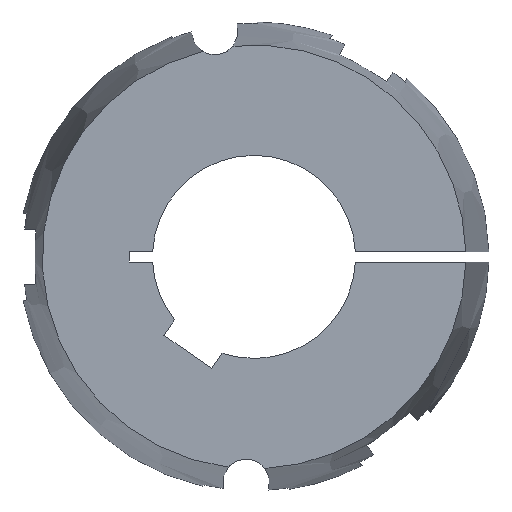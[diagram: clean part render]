
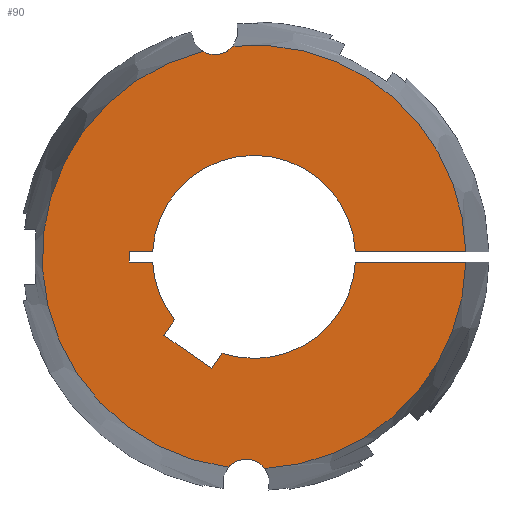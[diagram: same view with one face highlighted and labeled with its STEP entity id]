
A CAD part, left-side view. The second image highlights one B-rep face of the part: STEP entity #90.
In plain terms, the highlighted planar face has unit normal (-1, 0, 0).
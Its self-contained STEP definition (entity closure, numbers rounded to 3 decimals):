
#90 = ADVANCED_FACE( '', ( #140 ), #141, .F. );
#140 = FACE_OUTER_BOUND( '', #208, .T. );
#141 = PLANE( '', #209 );
#208 = EDGE_LOOP( '', ( #369, #370, #371, #372, #373, #374, #375, #376, #377, #378, #379, #380, #381, #382, #383, #384 ) );
#209 = AXIS2_PLACEMENT_3D( '', #385, #386, #387 );
#369 = ORIENTED_EDGE( '', *, *, #548, .F. );
#370 = ORIENTED_EDGE( '', *, *, #601, .F. );
#371 = ORIENTED_EDGE( '', *, *, #570, .T. );
#372 = ORIENTED_EDGE( '', *, *, #583, .T. );
#373 = ORIENTED_EDGE( '', *, *, #581, .T. );
#374 = ORIENTED_EDGE( '', *, *, #578, .T. );
#375 = ORIENTED_EDGE( '', *, *, #587, .T. );
#376 = ORIENTED_EDGE( '', *, *, #602, .T. );
#377 = ORIENTED_EDGE( '', *, *, #603, .T. );
#378 = ORIENTED_EDGE( '', *, *, #604, .T. );
#379 = ORIENTED_EDGE( '', *, *, #605, .T. );
#380 = ORIENTED_EDGE( '', *, *, #606, .T. );
#381 = ORIENTED_EDGE( '', *, *, #572, .T. );
#382 = ORIENTED_EDGE( '', *, *, #607, .F. );
#383 = ORIENTED_EDGE( '', *, *, #551, .F. );
#384 = ORIENTED_EDGE( '', *, *, #608, .F. );
#385 = CARTESIAN_POINT( '', ( -114., 0., 0. ) );
#386 = DIRECTION( '', ( 1., 0., 0. ) );
#387 = DIRECTION( '', ( 0., 1., 0. ) );
#548 = EDGE_CURVE( '', #649, #651, #652, .F. );
#551 = EDGE_CURVE( '', #655, #657, #658, .F. );
#570 = EDGE_CURVE( '', #693, #691, #694, .T. );
#572 = EDGE_CURVE( '', #696, #697, #698, .T. );
#578 = EDGE_CURVE( '', #709, #707, #710, .T. );
#581 = EDGE_CURVE( '', #714, #709, #715, .T. );
#583 = EDGE_CURVE( '', #691, #714, #717, .T. );
#587 = EDGE_CURVE( '', #707, #721, #723, .T. );
#601 = EDGE_CURVE( '', #693, #649, #745, .T. );
#602 = EDGE_CURVE( '', #721, #746, #747, .T. );
#603 = EDGE_CURVE( '', #746, #748, #749, .T. );
#604 = EDGE_CURVE( '', #748, #750, #751, .T. );
#605 = EDGE_CURVE( '', #750, #752, #753, .T. );
#606 = EDGE_CURVE( '', #752, #696, #754, .T. );
#607 = EDGE_CURVE( '', #657, #697, #755, .T. );
#608 = EDGE_CURVE( '', #651, #655, #756, .T. );
#649 = VERTEX_POINT( '', #815 );
#651 = VERTEX_POINT( '', #826 );
#652 = CIRCLE( '', #827, 8.125 );
#655 = VERTEX_POINT( '', #839 );
#657 = VERTEX_POINT( '', #852 );
#658 = CIRCLE( '', #853, 8.125 );
#691 = VERTEX_POINT( '', #920 );
#693 = VERTEX_POINT( '', #923 );
#694 = LINE( '', #924, #925 );
#696 = VERTEX_POINT( '', #933 );
#697 = VERTEX_POINT( '', #934 );
#698 = LINE( '', #935, #936 );
#707 = VERTEX_POINT( '', #954 );
#709 = VERTEX_POINT( '', #957 );
#710 = LINE( '', #958, #959 );
#714 = VERTEX_POINT( '', #965 );
#715 = LINE( '', #966, #967 );
#717 = CIRCLE( '', #970, 35. );
#721 = VERTEX_POINT( '', #975 );
#723 = LINE( '', #978, #979 );
#745 = CIRCLE( '', #1004, 73.028 );
#746 = VERTEX_POINT( '', #1005 );
#747 = CIRCLE( '', #1006, 35. );
#748 = VERTEX_POINT( '', #1007 );
#749 = LINE( '', #1008, #1009 );
#750 = VERTEX_POINT( '', #1010 );
#751 = LINE( '', #1011, #1012 );
#752 = VERTEX_POINT( '', #1013 );
#753 = LINE( '', #1014, #1015 );
#754 = CIRCLE( '', #1016, 35. );
#755 = CIRCLE( '', #1017, 73.028 );
#756 = CIRCLE( '', #1018, 73.028 );
#815 = CARTESIAN_POINT( '', ( -114., -3.751, -72.932 ) );
#826 = CARTESIAN_POINT( '', ( -114., 8.826, -72.493 ) );
#827 = AXIS2_PLACEMENT_3D( '', #1192, #1193, #1194 );
#839 = CARTESIAN_POINT( '', ( -114., 17.661, 70.861 ) );
#852 = CARTESIAN_POINT( '', ( -114., 7.262, 72.666 ) );
#853 = AXIS2_PLACEMENT_3D( '', #1195, #1196, #1197 );
#920 = CARTESIAN_POINT( '', ( -114., -34.956, -1.75 ) );
#923 = CARTESIAN_POINT( '', ( -114., -73.007, -1.75 ) );
#924 = CARTESIAN_POINT( '', ( -114., -81., -1.75 ) );
#925 = VECTOR( '', #1227, 1000. );
#933 = CARTESIAN_POINT( '', ( -114., -34.956, 1.75 ) );
#934 = CARTESIAN_POINT( '', ( -114., -73.007, 1.75 ) );
#935 = CARTESIAN_POINT( '', ( -114., 0., 1.75 ) );
#936 = VECTOR( '', #1228, 1000. );
#954 = CARTESIAN_POINT( '', ( -114., 31.077, -26.948 ) );
#957 = CARTESIAN_POINT( '', ( -114., 14.694, -38.42 ) );
#958 = CARTESIAN_POINT( '', ( -114., 14.694, -38.42 ) );
#959 = VECTOR( '', #1233, 1000. );
#965 = CARTESIAN_POINT( '', ( -114., 11.047, -33.211 ) );
#966 = CARTESIAN_POINT( '', ( -114., 11.047, -33.211 ) );
#967 = VECTOR( '', #1236, 1000. );
#970 = AXIS2_PLACEMENT_3D( '', #1238, #1239, #1240 );
#975 = CARTESIAN_POINT( '', ( -114., 27.43, -21.739 ) );
#978 = CARTESIAN_POINT( '', ( -114., 31.077, -26.948 ) );
#979 = VECTOR( '', #1246, 1000. );
#1004 = AXIS2_PLACEMENT_3D( '', #1280, #1281, #1282 );
#1005 = CARTESIAN_POINT( '', ( -114., 34.956, -1.75 ) );
#1006 = AXIS2_PLACEMENT_3D( '', #1283, #1284, #1285 );
#1007 = CARTESIAN_POINT( '', ( -114., 43., -1.75 ) );
#1008 = CARTESIAN_POINT( '', ( -114., 0., -1.75 ) );
#1009 = VECTOR( '', #1286, 1000. );
#1010 = CARTESIAN_POINT( '', ( -114., 43., 1.75 ) );
#1011 = CARTESIAN_POINT( '', ( -114., 43., -1.75 ) );
#1012 = VECTOR( '', #1287, 1000. );
#1013 = CARTESIAN_POINT( '', ( -114., 34.956, 1.75 ) );
#1014 = CARTESIAN_POINT( '', ( -114., 43., 1.75 ) );
#1015 = VECTOR( '', #1288, 1000. );
#1016 = AXIS2_PLACEMENT_3D( '', #1289, #1290, #1291 );
#1017 = AXIS2_PLACEMENT_3D( '', #1292, #1293, #1294 );
#1018 = AXIS2_PLACEMENT_3D( '', #1295, #1296, #1297 );
#1192 = CARTESIAN_POINT( '', ( -114., 2.717, -77.85 ) );
#1193 = DIRECTION( '', ( 1., 0., 0. ) );
#1194 = DIRECTION( '', ( 0., 1., 0. ) );
#1195 = CARTESIAN_POINT( '', ( -114., 13.519, 77.85 ) );
#1196 = DIRECTION( '', ( 1., 0., 0. ) );
#1197 = DIRECTION( '', ( 0., 1., 0. ) );
#1227 = DIRECTION( '', ( 0., 1., 0. ) );
#1228 = DIRECTION( '', ( 0., -1., 0. ) );
#1233 = DIRECTION( '', ( 0., 0.819, 0.574 ) );
#1236 = DIRECTION( '', ( 0., 0.574, -0.819 ) );
#1238 = CARTESIAN_POINT( '', ( -114., 0., 0. ) );
#1239 = DIRECTION( '', ( 1., 0., 0. ) );
#1240 = DIRECTION( '', ( 0., 0., -1. ) );
#1246 = DIRECTION( '', ( 0., -0.574, 0.819 ) );
#1280 = CARTESIAN_POINT( '', ( -114., 0., 0. ) );
#1281 = DIRECTION( '', ( 1., 0., 0. ) );
#1282 = DIRECTION( '', ( 0., 1., 0. ) );
#1283 = CARTESIAN_POINT( '', ( -114., 0., 0. ) );
#1284 = DIRECTION( '', ( 1., 0., 0. ) );
#1285 = DIRECTION( '', ( 0., 0., -1. ) );
#1286 = DIRECTION( '', ( 0., 1., 0. ) );
#1287 = DIRECTION( '', ( 0., 0., 1. ) );
#1288 = DIRECTION( '', ( 0., -1., 0. ) );
#1289 = CARTESIAN_POINT( '', ( -114., 0., 0. ) );
#1290 = DIRECTION( '', ( 1., 0., 0. ) );
#1291 = DIRECTION( '', ( 0., 0., -1. ) );
#1292 = CARTESIAN_POINT( '', ( -114., 0., 0. ) );
#1293 = DIRECTION( '', ( 1., 0., 0. ) );
#1294 = DIRECTION( '', ( 0., 1., 0. ) );
#1295 = CARTESIAN_POINT( '', ( -114., 0., 0. ) );
#1296 = DIRECTION( '', ( 1., 0., 0. ) );
#1297 = DIRECTION( '', ( 0., 1., 0. ) );
